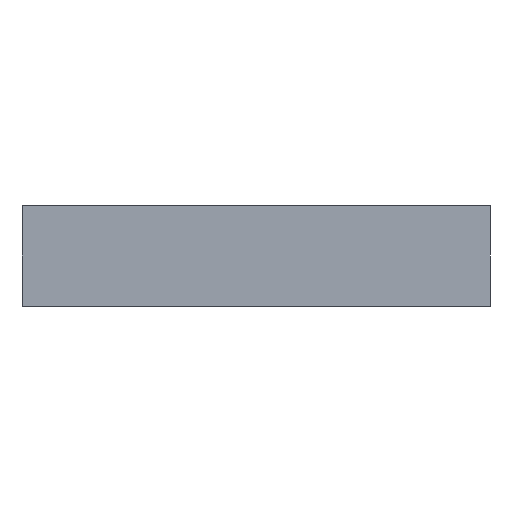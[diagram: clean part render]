
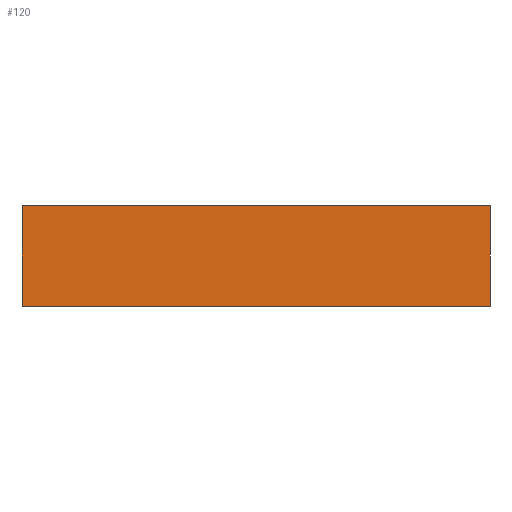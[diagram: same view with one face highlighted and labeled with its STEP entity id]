
A CAD part, front view. The second image highlights one B-rep face of the part: STEP entity #120.
In plain terms, the highlighted planar face has unit normal (0, -1, 0).
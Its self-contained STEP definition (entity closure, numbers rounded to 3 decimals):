
#66 = VERTEX_POINT ( 'NONE', #253 ) ;
#105 = EDGE_CURVE ( 'NONE', #66, #154, #196, .T. ) ;
#106 = ORIENTED_EDGE ( 'NONE', *, *, #109, .T. ) ;
#107 = EDGE_LOOP ( 'NONE', ( #123, #121, #106, #125 ) ) ;
#108 = EDGE_CURVE ( 'NONE', #110, #154, #263, .T. ) ;
#109 = EDGE_CURVE ( 'NONE', #118, #110, #286, .T. ) ;
#110 = VERTEX_POINT ( 'NONE', #283 ) ;
#117 = EDGE_CURVE ( 'NONE', #118, #66, #190, .T. ) ;
#118 = VERTEX_POINT ( 'NONE', #311 ) ;
#120 = ADVANCED_FACE ( 'NONE', ( #296 ), #295, .T. ) ;
#121 = ORIENTED_EDGE ( 'NONE', *, *, #117, .F. ) ;
#123 = ORIENTED_EDGE ( 'NONE', *, *, #105, .F. ) ;
#125 = ORIENTED_EDGE ( 'NONE', *, *, #108, .T. ) ;
#154 = VERTEX_POINT ( 'NONE', #393 ) ;
#186 = VECTOR ( 'NONE', #188, 1000. ) ;
#188 = DIRECTION ( 'NONE',  ( 0., 0., 1. ) ) ;
#189 = CARTESIAN_POINT ( 'NONE',  ( 0., -758.5, -3. ) ) ;
#190 = LINE ( 'NONE', #189, #186 ) ;
#196 = LINE ( 'NONE', #203, #202 ) ;
#201 = DIRECTION ( 'NONE',  ( 1., 0., 0. ) ) ;
#202 = VECTOR ( 'NONE', #201, 1000. ) ;
#203 = CARTESIAN_POINT ( 'NONE',  ( 0., -758.5, 0. ) ) ;
#253 = CARTESIAN_POINT ( 'NONE',  ( 0., -758.5, 0. ) ) ;
#263 = LINE ( 'NONE', #270, #269 ) ;
#268 = DIRECTION ( 'NONE',  ( 0., 0., 1. ) ) ;
#269 = VECTOR ( 'NONE', #268, 1000. ) ;
#270 = CARTESIAN_POINT ( 'NONE',  ( 14., -758.5, -3. ) ) ;
#278 = DIRECTION ( 'NONE',  ( 1., 0., 0. ) ) ;
#279 = VECTOR ( 'NONE', #278, 1000. ) ;
#280 = CARTESIAN_POINT ( 'NONE',  ( 0., -758.5, -3. ) ) ;
#283 = CARTESIAN_POINT ( 'NONE',  ( 14., -758.5, -3. ) ) ;
#286 = LINE ( 'NONE', #280, #279 ) ;
#291 = AXIS2_PLACEMENT_3D ( 'NONE', #300, #299, #306 ) ;
#295 = PLANE ( 'NONE',  #291 ) ;
#296 = FACE_OUTER_BOUND ( 'NONE', #107, .T. ) ;
#299 = DIRECTION ( 'NONE',  ( 0., -1., 0. ) ) ;
#300 = CARTESIAN_POINT ( 'NONE',  ( 0., -758.5, -3. ) ) ;
#306 = DIRECTION ( 'NONE',  ( 0., 0., -1. ) ) ;
#311 = CARTESIAN_POINT ( 'NONE',  ( 0., -758.5, -3. ) ) ;
#393 = CARTESIAN_POINT ( 'NONE',  ( 14., -758.5, 0. ) ) ;
